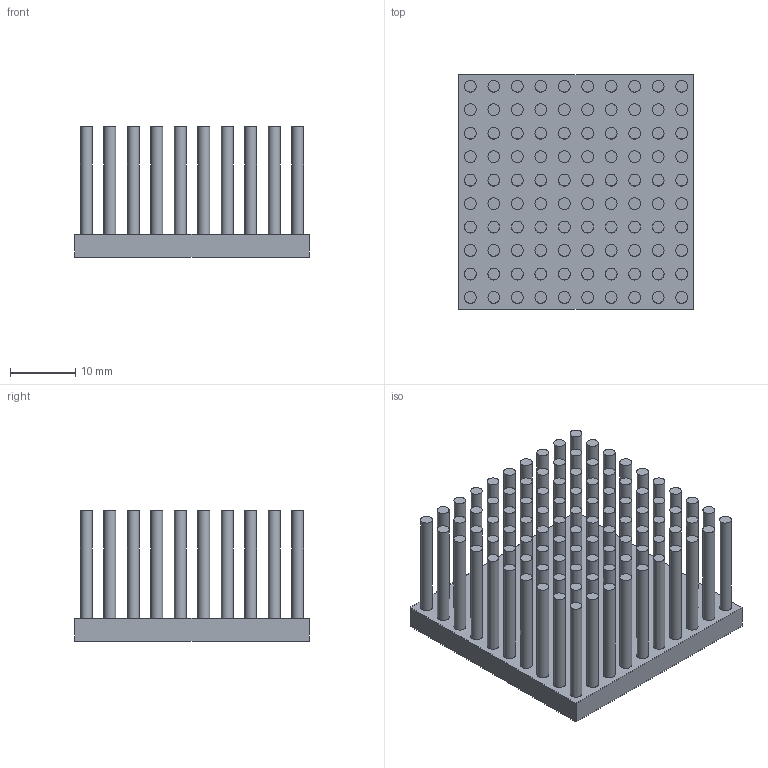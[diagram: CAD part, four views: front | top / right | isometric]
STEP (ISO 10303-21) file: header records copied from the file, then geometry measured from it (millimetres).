
FILE_DESCRIPTION(/* description */ (''),/* implementation_level */ '2;1');
FILE_NAME(/* name */ 'PB3636-100.stp',/* time_stamp */ '2013-08-21T08:59:16+08:00',/* author */ (''),/* organization */ (''),/* preprocessor_version */ 'ST-DEVELOPER v14',/* originating_system */ 'SIEMENS PLM Software NX 8.0',/* authorisation */ '');
FILE_SCHEMA (('CONFIG_CONTROL_DESIGN'));
Length unit declared in the file: millimetre
Products named in the file (1): PB3636-100
Bounding box: 36 x 36 x 20 mm (x, y, z)
Volume: 8734.7 mm3; surface area: 12426.5 mm2
Topology: 1 solids, 1 shells, 206 faces, 312 edges, 208 vertices
Faces by surface type: plane 106, cylinder 100
Full cylindrical faces by diameter (mm): 1.8 x100
Entity records: 4240 total; most frequent: DIRECTION 826, CARTESIAN_POINT 627, ORIENTED_EDGE 424, AXIS2_PLACEMENT_3D 407, EDGE_LOOP 406, FACE_BOUND 301, EDGE_CURVE 212, VERTEX_POINT 208
